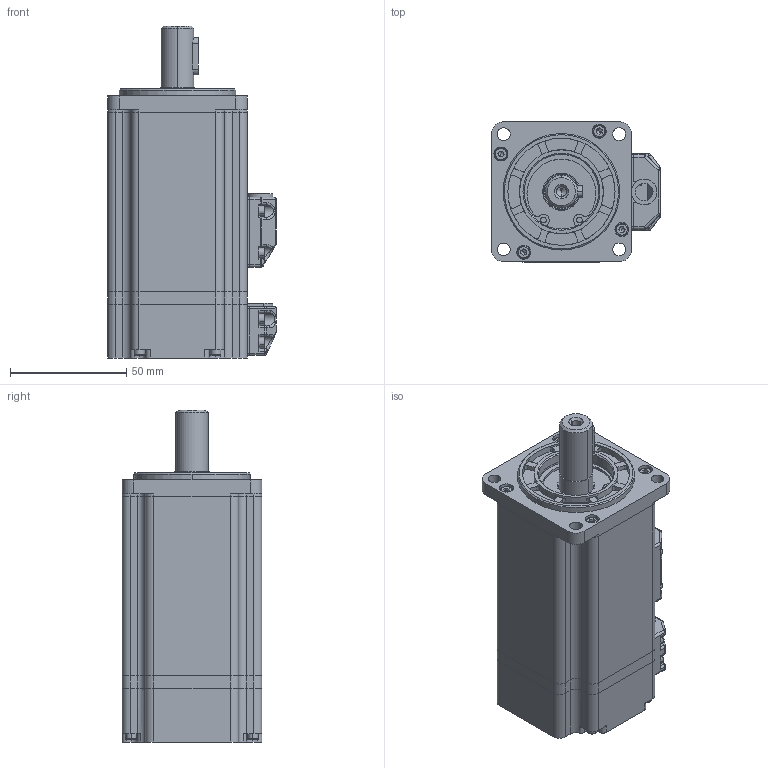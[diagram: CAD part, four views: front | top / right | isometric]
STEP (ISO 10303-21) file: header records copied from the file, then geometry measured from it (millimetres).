
FILE_DESCRIPTION (( 'STEP AP203' ), '1' );
FILE_NAME ('淕儂蚾饜.STEP', '2021-03-12T05:44:56', ( 'admin' ), ( '' ), 'SwSTEP 2.0', 'SolidWorks 2016', '' );
FILE_SCHEMA (( 'CONFIG_CONTROL_DESIGN' ));
Products named in the file (1): 淕儂蚾饜
Bounding box: 72.5 x 60 x 142.5 mm (x, y, z)
Volume: 154999.5 mm3; surface area: 103162.2 mm2
Topology: 31 solids, 31 shells, 1620 faces, 4323 edges, 2706 vertices
Faces by surface type: cylinder 684, plane 600, cone 148, torus 94, sphere 70, bspline 24
Entity records: 53464 total; most frequent: CARTESIAN_POINT 13126, DIRECTION 8803, ORIENTED_EDGE 8286, EDGE_CURVE 4143, AXIS2_PLACEMENT_3D 3435, VERTEX_POINT 2642, VECTOR 1933, LINE 1933
